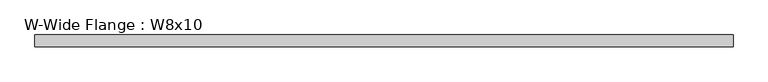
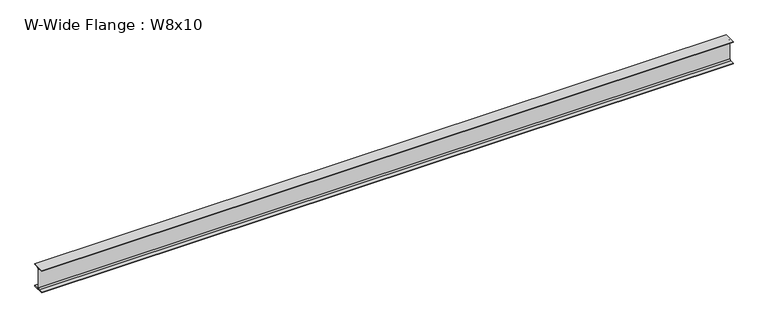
"""IFC4 building model written with IfcOpenShell, lengths in millimetres: beam geometry, W-Wide Flange : W8x10."""

from ifc_helpers import new_model, si_unit, point, frame, frame_2d, origin, place, context, project, spatial, polyline, circle_curve, trimmed, segment, composite_curve, outline, extrude, source, transform, mapped, element, save


def w_wide_flange_w8x10_dd5fc601(model_context):
    return source(origin(), model_context, "Body", "SweptSolid", [
        extrude(outline(composite_curve([segment(polyline([(50.038, -94.996), (50.038, -100.203), (-50.038, -100.203), (-50.038, -94.996), (-14.4145, -94.996)]), True, "CONTINUOUS"), segment(trimmed(circle_curve(frame_2d((-14.4145, -82.7405)), 12.2555), [point((-14.4145, -94.996))], [point((-2.159, -82.7405))], True, "CARTESIAN"), True, "CONTINUOUS"), segment(polyline([(-2.159, -82.7405), (-2.159, 82.7405)]), True, "CONTINUOUS"), segment(trimmed(circle_curve(frame_2d((-14.4145, 82.7405)), 12.2555), [point((-2.159, 82.7405))], [point((-14.4145, 94.996))], True, "CARTESIAN"), True, "CONTINUOUS"), segment(polyline([(-14.4145, 94.996), (-50.038, 94.996), (-50.038, 100.203), (50.038, 100.203), (50.038, 94.996), (14.4145, 94.996)]), True, "CONTINUOUS"), segment(trimmed(circle_curve(frame_2d((14.4145, 82.7405)), 12.2555), [point((14.4145, 94.996))], [point((2.159, 82.7405))], True, "CARTESIAN"), True, "CONTINUOUS"), segment(polyline([(2.159, 82.7405), (2.159, -82.7405)]), True, "CONTINUOUS"), segment(trimmed(circle_curve(frame_2d((14.4145, -82.7405)), 12.2555), [point((2.159, -82.7405))], [point((14.4145, -94.996))], True, "CARTESIAN"), True, "CONTINUOUS"), segment(polyline([(14.4145, -94.996), (50.038, -94.996)]), True, "CONTINUOUS")], self_intersect=False)), frame((-2960.8741006, 0.0, 0.0), z_axis=(1.0, 0.0, 0.0), x_axis=(0.0, 1.0, 0.0)), (0.0, 0.0, 1.0), 5923.026),
    ])


if __name__ == "__main__":
    model = new_model("IFC4")
    model_context = context("Model", 3, world=origin())
    ifc_project = project(units=[si_unit("LENGTHUNIT", "METRE", prefix="MILLI")], contexts=[model_context])
    site = spatial("IfcSite", under=ifc_project)
    building = spatial("IfcBuilding", under=site)
    placement = place(None, origin())
    w_wide_flange_w8x10_shape = w_wide_flange_w8x10_dd5fc601(model_context)
    element("IfcBeam", 1, ObjectType="W-Wide Flange : W8x10", at=placement, inside=building, context=model_context, shape_type="MappedRepresentation", body=[
        mapped(w_wide_flange_w8x10_shape, transform((0.0, 0.0, 0.0), x_axis=(1.0, 0.0, 0.0), y_axis=(0.0, 1.0, 0.0), z_axis=(0.0, 0.0, 1.0))),
    ])
    save(model, "model.ifc")
